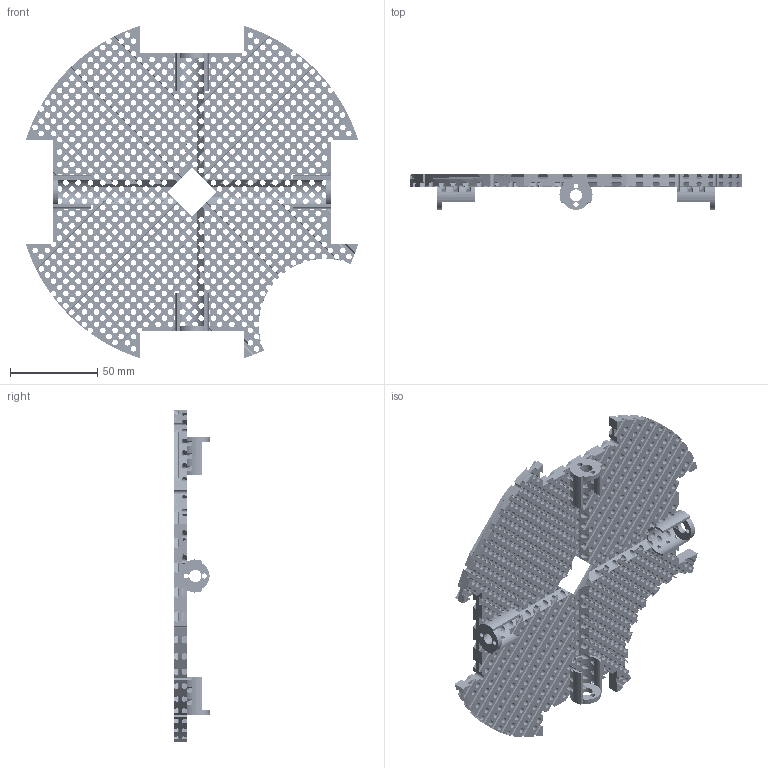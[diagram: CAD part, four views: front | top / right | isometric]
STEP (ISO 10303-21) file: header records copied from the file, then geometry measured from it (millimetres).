
FILE_DESCRIPTION(/* description */ (''),/* implementation_level */ '2;1');
FILE_NAME(/* name */ 'C:/Users/priba/Downloads/mrm-rob-socc-board-rpi.step',/* time_stamp */ '2022-04-03T23:54:21+02:00',/* author */ (''),/* organization */ (''),/* preprocessor_version */ 'ST-DEVELOPER v18.1',/* originating_system */ 'Autodesk Translation Framework v10.13.0.1454',/* authorisation */ '');
FILE_SCHEMA (('AUTOMOTIVE_DESIGN { 1 0 10303 214 3 1 1 }'));
Products named in the file (1): mrm-rob-socc-board-rpi
Bounding box: 190.79 x 20.17 x 190.79 mm (x, y, z)
Volume: 90275.4 mm3; surface area: 108968.2 mm2
Topology: 1 solids, 1 shells, 3124 faces, 13026 edges, 8692 vertices
Faces by surface type: plane 2058, cylinder 1066
Full cylindrical faces by diameter (mm): 2.9 x8, 3.2 x908, 7.1 x4
Entity records: 145454 total; most frequent: CARTESIAN_POINT 27747, DIRECTION 26914, ORIENTED_EDGE 26052, EDGE_CURVE 13026, AXIS2_PLACEMENT_3D 10971, VERTEX_POINT 8692, LINE 4972, VECTOR 4972
